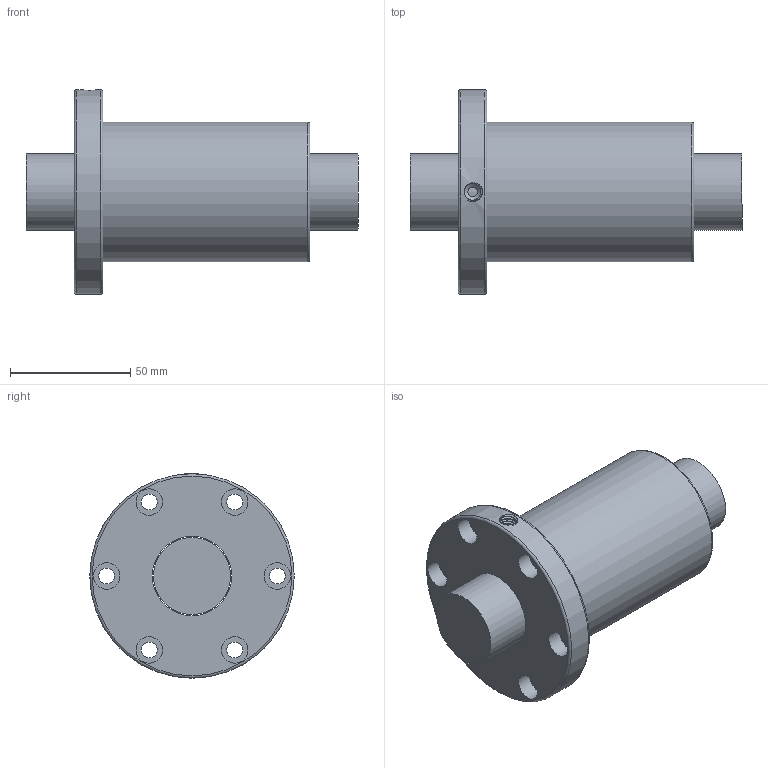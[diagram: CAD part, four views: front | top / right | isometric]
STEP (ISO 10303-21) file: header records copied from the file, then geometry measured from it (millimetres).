
FILE_DESCRIPTION(/* description */ ('Unknown','CAx-IF Rec.Pracs.---Representation and Presentation of Product Manufacturing Information (PMI)---4.0---2014-10-13','CAx-IF Rec.Pracs.---3D Tessellated Geometry---0.4---2014-09-14','2;1'),/* implementation_level */ '2;1');
FILE_NAME(/* name */ 'OFV03205-4.8',/* time_stamp */ '2020-12-08T11:53:33+08:00',/* author */ ('Unknown'),/* organization */ ('Unknown'),/* preprocessor_version */ 'ST-DEVELOPER v16.7',/* originating_system */ 'Solid Edge',/* authorisation */ 'Unknown');
FILE_SCHEMA (('AP242_MANAGED_MODEL_BASED_3D_ENGINEERING_MIM_LF { 1 0 10303 442 1 1 4 }'));
Length unit declared in the file: millimetre
Products named in the file (1): OFV03205-4.8
Bounding box: 138 x 85 x 85 mm (x, y, z)
Volume: 316899.1 mm3; surface area: 55953 mm2
Topology: 2 solids, 2 shells, 38 faces, 82 edges, 55 vertices
Faces by surface type: cylinder 20, plane 12, torus 3, bspline 2, cone 1
Full cylindrical faces by diameter (mm): 4 x1, 6.6 x6, 6.917 x1, 11 x6, 32 x1, 33 x1, 58 x1, 85 x1
Entity records: 2781 total; most frequent: CARTESIAN_POINT 1979, DIRECTION 160, ORIENTED_EDGE 102, EDGE_LOOP 83, FACE_BOUND 83, AXIS2_PLACEMENT_3D 81, EDGE_CURVE 51, VERTEX_POINT 46
